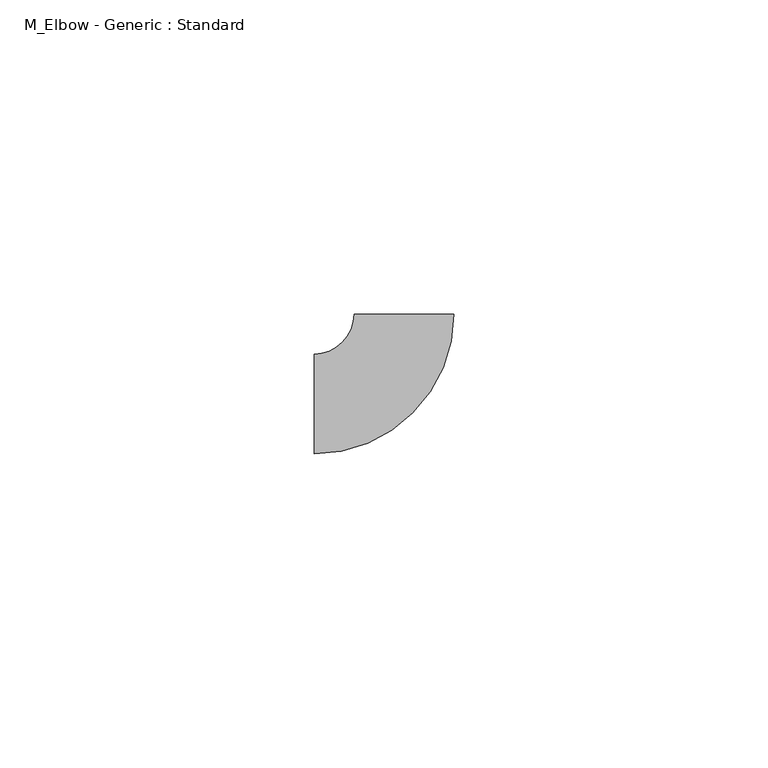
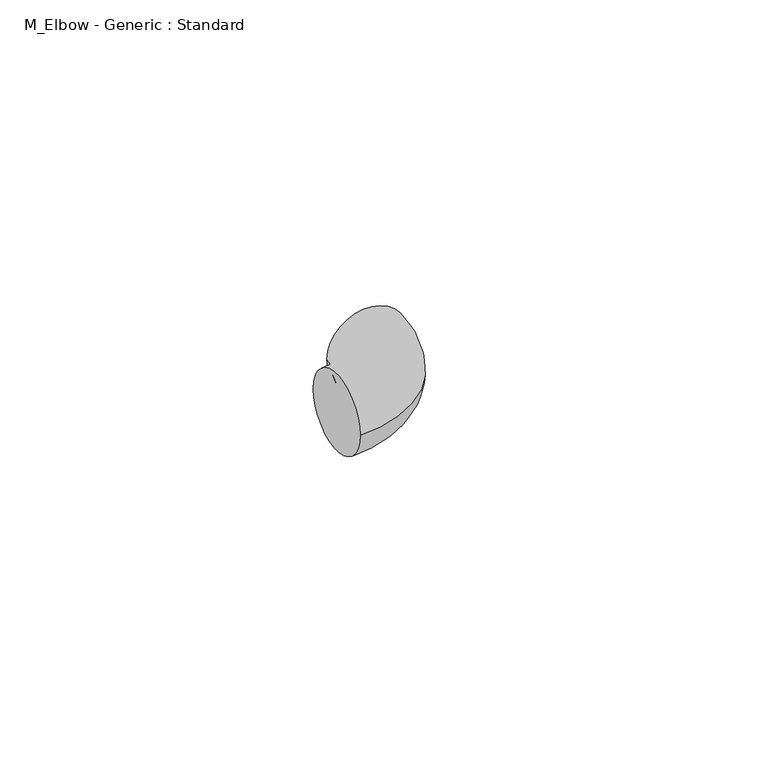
"""IFC4 building model written with IfcOpenShell, lengths in millimetres: pipe fitting geometry, M_Elbow - Generic : Standard."""

from ifc_helpers import new_model, si_unit, point, frame, origin, place, context, project, spatial, circle_curve, ellipse_curve, trimmed, source, transform, mapped, element, save
from ifc_brep_helpers import plane_surface, revolved_surface, advanced_brep


def m_elbow_generic_standard_411ee063(model_context):
    return source(origin(), model_context, "Body", "AdvancedBrep", [
        advanced_brep(
        [(-14.2862987, -7.9375, 0.0), (-14.2862987, 7.9375, 0.0), (7.9387013, 14.2856312, 0.0), (-7.9362987, 14.2869661, 0.0)],
        [
            (0, 1, circle_curve(frame((-14.2862987, 0.0, 0.0), z_axis=(-1.0, 0.0, 0.0), x_axis=(0.0, 1.0, 0.0)), 7.9375)),
            (1, 0, circle_curve(frame((-14.2862987, 0.0, 0.0), z_axis=(-1.0, 0.0, 0.0), x_axis=(0.0, 1.0, 0.0)), 7.9375)),
            (2, 3, circle_curve(frame((0.0012013, 14.2862986, 0.0), z_axis=(8.408628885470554e-05, 0.999999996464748, 0.0), x_axis=(-0.999999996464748, 8.408628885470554e-05, 0.0)), 7.9375)),
            (3, 2, circle_curve(frame((0.0012013, 14.2862986, 0.0), z_axis=(8.408628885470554e-05, 0.999999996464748, 0.0), x_axis=(-0.999999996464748, 8.408628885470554e-05, 0.0)), 7.9375)),
            (3, 1, circle_curve(frame((-14.2862987, 14.2875, 0.0), z_axis=(0.0, 0.0, -1.0), x_axis=(0.0, -1.0, 0.0)), 6.35)),
            (0, 2, circle_curve(frame((-14.2862987, 14.2875, 0.0), z_axis=(0.0, 0.0, 1.0), x_axis=(0.0, -1.0, 0.0)), 22.225)),
        ],
        [
            plane_surface(frame((-14.2862987, 0.0, 0.0), z_axis=(-1.0, 0.0, 0.0), x_axis=(0.0, 0.0, 1.0))),
            plane_surface(frame((0.0012013, 14.2862986, 0.0), z_axis=(8.408628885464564e-05, 0.9999999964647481, 0.0), x_axis=(0.0, 0.0, 1.0))),
            revolved_surface(trimmed(ellipse_curve(frame((-14.2862987, 0.0, 0.0), z_axis=(-1.0, 0.0, 0.0), x_axis=(0.0, 1.0, 0.0)), 7.9375, 7.9375), [point((-14.2862987, -7.9375, 0.0))], [point((-14.2862987, 7.9375, 0.0))], True, "CARTESIAN"), (-14.2862987, 14.2875, 0.0), (0.0, 0.0, 1.0)),
            revolved_surface(trimmed(ellipse_curve(frame((-14.2862987, 0.0, 0.0), z_axis=(-1.0, 0.0, 0.0), x_axis=(0.0, 1.0, 0.0)), 7.9375, 7.9375), [point((-14.2862987, 7.9375, 0.0))], [point((-14.2862987, -7.9375, 0.0))], True, "CARTESIAN"), (-14.2862987, 14.2875, 0.0), (0.0, 0.0, 1.0)),
        ],
        [
            (0, [[1, 2]]),
            (1, [[3, 4]]),
            (2, [[5, -1, 6, -4]]),
            (3, [[-6, -2, -5, -3]]),
        ],
    ),
    ])


if __name__ == "__main__":
    model = new_model("IFC4")
    model_context = context("Model", 3, world=origin())
    ifc_project = project(units=[si_unit("LENGTHUNIT", "METRE", prefix="MILLI")], contexts=[model_context])
    site = spatial("IfcSite", under=ifc_project)
    building = spatial("IfcBuilding", under=site)
    placement = place(None, origin())
    m_elbow_generic_standard_shape = m_elbow_generic_standard_411ee063(model_context)
    element("IfcPipeFitting", 1, ObjectType="M_Elbow - Generic : Standard", at=placement, inside=building, context=model_context, shape_type="MappedRepresentation", body=[
        mapped(m_elbow_generic_standard_shape, transform((0.0, 0.0, 0.0), x_axis=(1.0, 0.0, 0.0), y_axis=(0.0, 1.0, 0.0), z_axis=(0.0, 0.0, 1.0))),
    ])
    save(model, "model.ifc")
